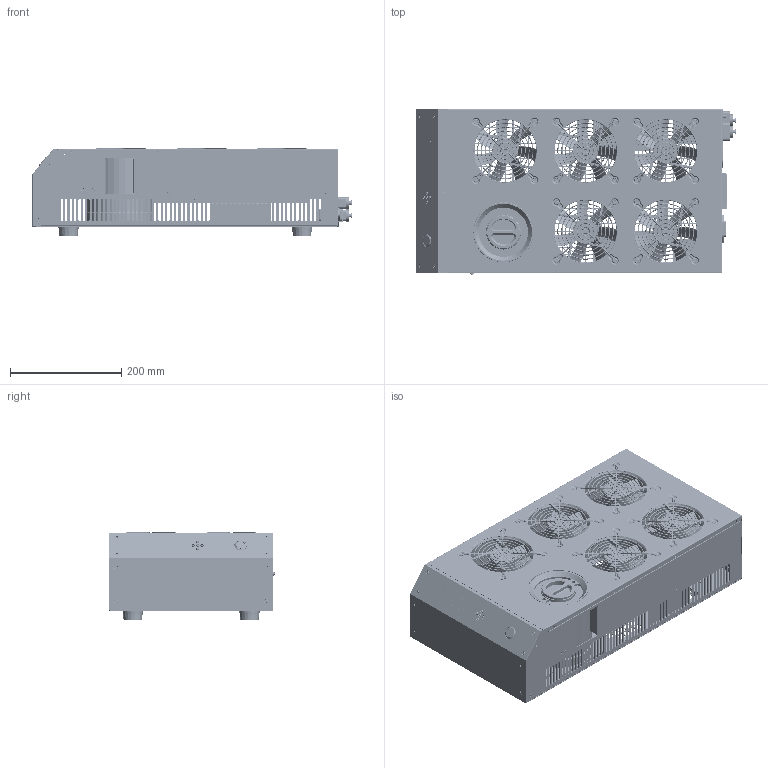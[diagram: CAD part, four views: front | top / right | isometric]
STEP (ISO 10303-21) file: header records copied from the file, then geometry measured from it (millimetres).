
FILE_DESCRIPTION (( 'STEP AP203' ), '1' );
FILE_NAME ('ALX-3000 assy.STEP', '2025-02-24T11:34:39', ( 'admin' ), ( '' ), 'SwSTEP 2.0', 'SolidWorks 2012', '' );
FILE_SCHEMA (( 'CONFIG_CONTROL_DESIGN' ));
Products named in the file (38): BKT-ALX3000-RP; BDY-ALX3000-TNK; COV-ALX3000-TNK-B; COV-ALX3000-TNK-T; ALX-3000 assy; PAD-EXC800; BLT-M3X6LW; SWT-MP19-NL-SL; Bolt M3x5LF; BKT-ALX3000-LED; SWT-ALR4500-AC; SWT-1208YD-BK; COV-ALX3000-T-ASSY; PLG-NPT38; CAP-A2132-1; KNB-CTRCD1224; BLT-M5X9LM; GRL-AP002P; COV-ALX3000-T; FAN-12038HBK-184; WIN-ALX3000; CAS-ALX3000-F1; BZL-ALX3000-T; BKT-C1548-1; BKT-ACSKT; ADT-ALX3000-OUT; BKT-ALX3000-INT; BKT-ALX3000-PS; ADT-ALX3000-IN; PLT-ALX3000-B; BZL-ALX3000-B; PLT-ALX3000-TNK; RP-ALX3000-ASSY; COV-ALX3000-RS; CAS-ALX3000-L; CAS-ALX3000-R; COV-ALX3000-B; FRM-ALX3000-R
Assembly tree (127 placements, depth 3):
  ALX-3000 assy
    FRM-ALX3000-R
    COV-ALX3000-B
    CAS-ALX3000-R
    CAS-ALX3000-L
    COV-ALX3000-RS
    RP-ALX3000-ASSY
      BDY-ALX3000-TNK
      COV-ALX3000-TNK-B
      COV-ALX3000-TNK-T
      BKT-ALX3000-RP
      PLT-ALX3000-TNK
    BZL-ALX3000-B
    PLT-ALX3000-B
    ADT-ALX3000-IN
    ADT-ALX3000-OUT
    BKT-ACSKT
    BKT-ALX3000-PS
    BKT-ALX3000-INT
    BZL-ALX3000-T
    CAS-ALX3000-F1
    BKT-C1548-1
    WIN-ALX3000
    COV-ALX3000-T-ASSY
      COV-ALX3000-T
      FAN-12038HBK-184  x5
      GRL-AP002P  x5
      BLT-M5X9LM  x20
    CAP-A2132-1
    KNB-CTRCD1224  x5
    PLG-NPT38  x2
    SWT-1208YD-BK
    BKT-ALX3000-LED
    SWT-ALR4500-AC
    SWT-MP19-NL-SL
    Bolt M3x5LF  x49
    BLT-M3X6LW  x8
    PAD-EXC800  x4
Bounding box: 574.3 x 298.1 x 158.74 mm (x, y, z)
Volume: 1532968.7 mm3; surface area: 2014933.8 mm2
Topology: 141 solids, 151 shells, 8093 faces, 20863 edges, 13355 vertices
Faces by surface type: plane 3880, cylinder 2192, cone 865, bspline 770, torus 372, sphere 14
Entity records: 176936 total; most frequent: CARTESIAN_POINT 36681, DIRECTION 28359, ORIENTED_EDGE 27182, EDGE_CURVE 13605, AXIS2_PLACEMENT_3D 9923, VERTEX_POINT 8729, VECTOR 8513, LINE 8513
